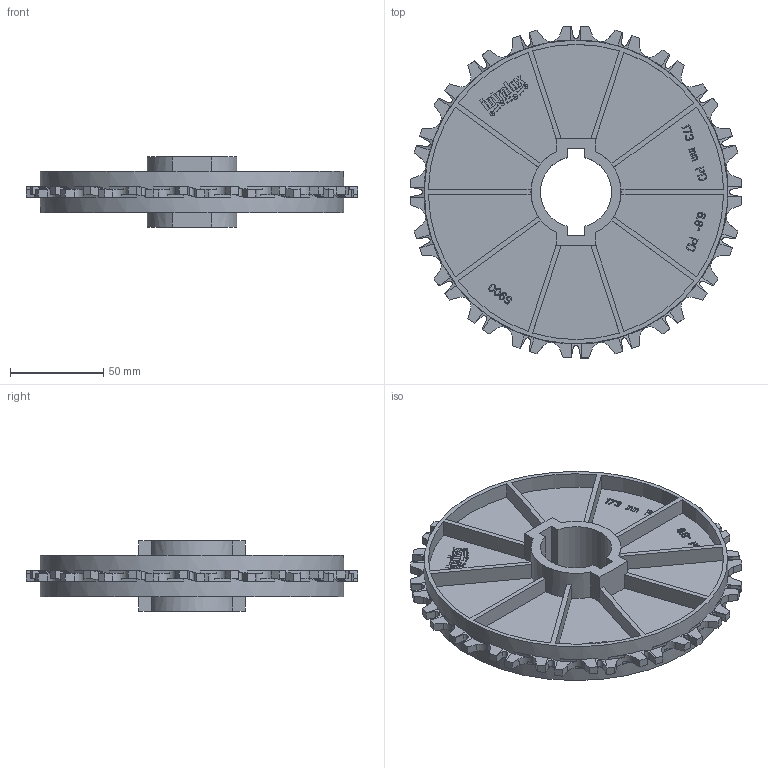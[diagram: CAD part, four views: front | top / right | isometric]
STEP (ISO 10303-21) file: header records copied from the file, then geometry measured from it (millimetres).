
FILE_DESCRIPTION((''),'2;1');
FILE_NAME('S900_SPROCKET_68X1-3_16_PILOT','2008-12-12T',('jmumphre'),(''),'PRO/ENGINEER BY PARAMETRIC TECHNOLOGY CORPORATION, 2008150','PRO/ENGINEER BY PARAMETRIC TECHNOLOGY CORPORATION, 2008150','');
FILE_SCHEMA(('CONFIG_CONTROL_DESIGN'));
Length unit declared in the file: inch
Products named in the file (1): S900_SPROCKET_68X1-3_16_PILOT
Bounding box: 177.86 x 177.86 x 37.59 mm (x, y, z)
Volume: 170145.8 mm3; surface area: 94392.3 mm2
Topology: 1 solids, 1 shells, 1263 faces, 3725 edges, 2510 vertices
Faces by surface type: plane 1103, cylinder 160
Entity records: 42612 total; most frequent: CARTESIAN_POINT 8715, ORIENTED_EDGE 7450, DIRECTION 6467, EDGE_CURVE 3725, VECTOR 3181, LINE 3181, VERTEX_POINT 2510, AXIS2_PLACEMENT_3D 1643
